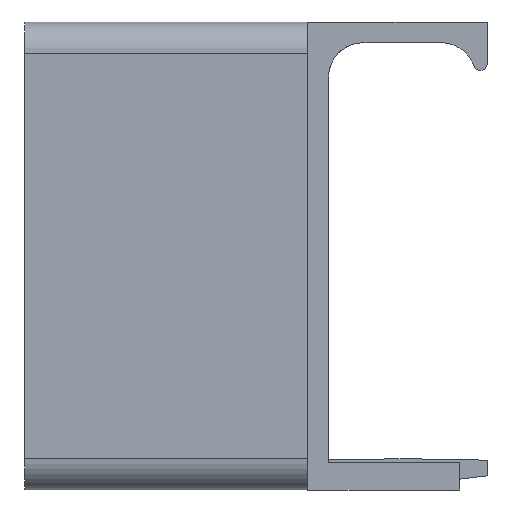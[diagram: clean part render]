
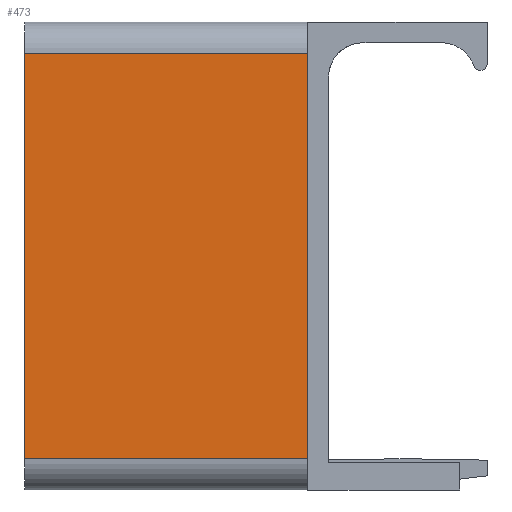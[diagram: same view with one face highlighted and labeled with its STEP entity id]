
A CAD part, front view. The second image highlights one B-rep face of the part: STEP entity #473.
In plain terms, the highlighted planar face has unit normal (0, -1, 0).
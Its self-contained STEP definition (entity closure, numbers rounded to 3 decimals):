
#35 = CARTESIAN_POINT ( 'NONE',  ( -1.5, -6.9, -16.6 ) ) ;
#36 = DIRECTION ( 'NONE',  ( 0., 0., 1. ) ) ;
#66 = CARTESIAN_POINT ( 'NONE',  ( -22., -6.9, -16.6 ) ) ;
#67 = DIRECTION ( 'NONE',  ( 1., 0., 0. ) ) ;
#72 = CARTESIAN_POINT ( 'NONE',  ( -22., -6.9, 12.7 ) ) ;
#73 = DIRECTION ( 'NONE',  ( -1., 0., 0. ) ) ;
#94 = CARTESIAN_POINT ( 'NONE',  ( -22., -6.9, -16.6 ) ) ;
#103 = PLANE ( 'NONE',  #777 ) ;
#108 = DIRECTION ( 'NONE',  ( 0., -1., 0. ) ) ;
#109 = DIRECTION ( 'NONE',  ( 1., 0., 0. ) ) ;
#140 = CARTESIAN_POINT ( 'NONE',  ( -1.5, -6.9, -16.6 ) ) ;
#306 = CARTESIAN_POINT ( 'NONE',  ( -1.5, -6.9, 12.7 ) ) ;
#307 = CARTESIAN_POINT ( 'NONE',  ( -22., -6.9, 12.7 ) ) ;
#309 = CARTESIAN_POINT ( 'NONE',  ( -22., -6.9, -16.6 ) ) ;
#441 = EDGE_CURVE ( 'NONE', #485, #523, #1008, .T. ) ;
#455 = EDGE_CURVE ( 'NONE', #526, #485, #850, .T. ) ;
#458 = EDGE_CURVE ( 'NONE', #523, #524, #920, .T. ) ;
#473 = ADVANCED_FACE ( 'NONE', ( #1057 ), #103, .T. ) ;
#485 = VERTEX_POINT ( 'NONE', #140 ) ;
#523 = VERTEX_POINT ( 'NONE', #306 ) ;
#524 = VERTEX_POINT ( 'NONE', #307 ) ;
#526 = VERTEX_POINT ( 'NONE', #309 ) ;
#605 = CARTESIAN_POINT ( 'NONE',  ( -22., -6.9, 11. ) ) ;
#606 = DIRECTION ( 'NONE',  ( 0., 0., -1. ) ) ;
#777 = AXIS2_PLACEMENT_3D ( 'NONE', #94, #108, #109 ) ;
#788 = EDGE_CURVE ( 'NONE', #524, #526, #1345, .T. ) ;
#843 = VECTOR ( 'NONE', #73, 1000. ) ;
#850 = LINE ( 'NONE', #66, #1087 ) ;
#908 = ORIENTED_EDGE ( 'NONE', *, *, #441, .T. ) ;
#920 = LINE ( 'NONE', #72, #843 ) ;
#969 = EDGE_LOOP ( 'NONE', ( #908, #1125, #1116, #1180 ) ) ;
#994 = VECTOR ( 'NONE', #36, 1000. ) ;
#1008 = LINE ( 'NONE', #35, #994 ) ;
#1057 = FACE_OUTER_BOUND ( 'NONE', #969, .T. ) ;
#1087 = VECTOR ( 'NONE', #67, 1000. ) ;
#1116 = ORIENTED_EDGE ( 'NONE', *, *, #788, .T. ) ;
#1125 = ORIENTED_EDGE ( 'NONE', *, *, #458, .T. ) ;
#1180 = ORIENTED_EDGE ( 'NONE', *, *, #455, .T. ) ;
#1345 = LINE ( 'NONE', #605, #1346 ) ;
#1346 = VECTOR ( 'NONE', #606, 1000. ) ;
